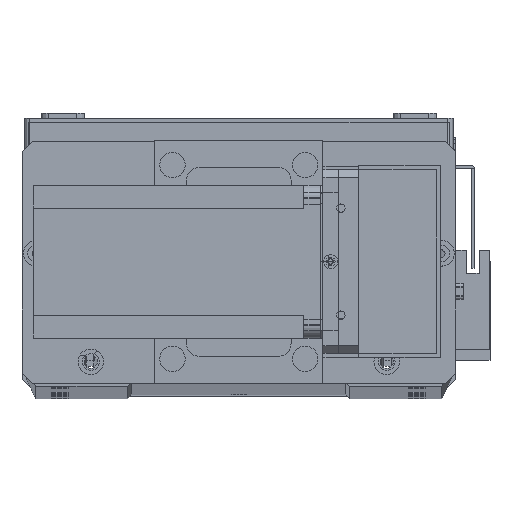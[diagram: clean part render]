
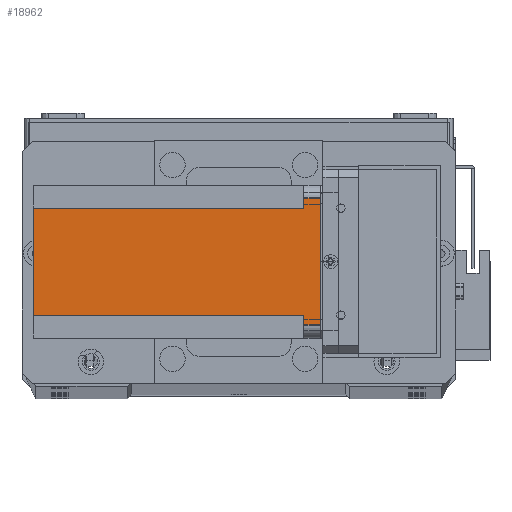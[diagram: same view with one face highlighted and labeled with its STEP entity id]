
A CAD part, top view. The second image highlights one B-rep face of the part: STEP entity #18962.
In plain terms, the highlighted planar face has unit normal (0, 0, 1) as drawn and (-1, 0, 0) by its records, which use the part's own axes.
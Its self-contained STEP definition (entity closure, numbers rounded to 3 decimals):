
#63 = CARTESIAN_POINT ( 'NONE',  ( 0., 51., -112.5 ) ) ;
#289 = VERTEX_POINT ( 'NONE', #32777 ) ;
#310 = VERTEX_POINT ( 'NONE', #14997 ) ;
#671 = LINE ( 'NONE', #8855, #33770 ) ;
#1322 = CARTESIAN_POINT ( 'NONE',  ( 0., 0., 0. ) ) ;
#1797 = CARTESIAN_POINT ( 'NONE',  ( 0., 5., 0. ) ) ;
#2201 = VERTEX_POINT ( 'NONE', #29296 ) ;
#3550 = DIRECTION ( 'NONE',  ( 0., 1., 0. ) ) ;
#3660 = DIRECTION ( 'NONE',  ( 0., -1., 0. ) ) ;
#3723 = EDGE_LOOP ( 'NONE', ( #21730, #23005, #26495, #27549, #28196, #28645, #29731, #30872 ) ) ;
#5030 = VERTEX_POINT ( 'NONE', #25143 ) ;
#5308 = FACE_OUTER_BOUND ( 'NONE', #3723, .T. ) ;
#5774 = LINE ( 'NONE', #14594, #19087 ) ;
#6526 = VECTOR ( 'NONE', #33902, 1000. ) ;
#7819 = EDGE_CURVE ( 'NONE', #310, #32319, #671, .T. ) ;
#8855 = CARTESIAN_POINT ( 'NONE',  ( 0., 55., -112.5 ) ) ;
#8934 = VECTOR ( 'NONE', #15512, 1000. ) ;
#9707 = EDGE_CURVE ( 'NONE', #29078, #12531, #31397, .T. ) ;
#9762 = EDGE_CURVE ( 'NONE', #29078, #5030, #10902, .T. ) ;
#9794 = LINE ( 'NONE', #15632, #8934 ) ;
#10415 = CARTESIAN_POINT ( 'NONE',  ( 0., 0., -112.5 ) ) ;
#10902 = LINE ( 'NONE', #14690, #29821 ) ;
#11024 = EDGE_CURVE ( 'NONE', #32671, #32319, #12961, .T. ) ;
#11314 = AXIS2_PLACEMENT_3D ( 'NONE', #10415, #13077, #30944 ) ;
#12114 = LINE ( 'NONE', #1322, #32537 ) ;
#12531 = VERTEX_POINT ( 'NONE', #1797 ) ;
#12961 = LINE ( 'NONE', #16318, #32554 ) ;
#13077 = DIRECTION ( 'NONE',  ( -1., 0., 0. ) ) ;
#14451 = DIRECTION ( 'NONE',  ( 0., 1., 0. ) ) ;
#14594 = CARTESIAN_POINT ( 'NONE',  ( 0., 0., -112.5 ) ) ;
#14690 = CARTESIAN_POINT ( 'NONE',  ( 0., 0., -6.5 ) ) ;
#14997 = CARTESIAN_POINT ( 'NONE',  ( 0., 55., 0. ) ) ;
#15512 = DIRECTION ( 'NONE',  ( 0., 0., -1. ) ) ;
#15632 = CARTESIAN_POINT ( 'NONE',  ( 0., 9., -112.5 ) ) ;
#16318 = CARTESIAN_POINT ( 'NONE',  ( 0., 60., -6.5 ) ) ;
#17379 = EDGE_CURVE ( 'NONE', #5030, #2201, #9794, .T. ) ;
#18322 = CARTESIAN_POINT ( 'NONE',  ( 0., 55., -6.5 ) ) ;
#18715 = EDGE_CURVE ( 'NONE', #289, #2201, #5774, .T. ) ;
#18962 = ADVANCED_FACE ( 'NONE', ( #5308 ), #25898, .T. ) ;
#19087 = VECTOR ( 'NONE', #3660, 1000. ) ;
#19724 = CARTESIAN_POINT ( 'NONE',  ( 0., 5., -112.5 ) ) ;
#19942 = DIRECTION ( 'NONE',  ( 0., 0., 1. ) ) ;
#20005 = DIRECTION ( 'NONE',  ( 0., -1., 0. ) ) ;
#20566 = LINE ( 'NONE', #63, #6526 ) ;
#21665 = CARTESIAN_POINT ( 'NONE',  ( 0., 51., -6.5 ) ) ;
#21730 = ORIENTED_EDGE ( 'NONE', *, *, #9762, .F. ) ;
#22886 = DIRECTION ( 'NONE',  ( 0., 0., -1. ) ) ;
#23005 = ORIENTED_EDGE ( 'NONE', *, *, #9707, .T. ) ;
#25001 = CARTESIAN_POINT ( 'NONE',  ( 0., 5., -6.5 ) ) ;
#25143 = CARTESIAN_POINT ( 'NONE',  ( 0., 9., -6.5 ) ) ;
#25475 = VECTOR ( 'NONE', #19942, 1000. ) ;
#25898 = PLANE ( 'NONE',  #11314 ) ;
#26495 = ORIENTED_EDGE ( 'NONE', *, *, #26990, .F. ) ;
#26990 = EDGE_CURVE ( 'NONE', #310, #12531, #12114, .T. ) ;
#27549 = ORIENTED_EDGE ( 'NONE', *, *, #7819, .T. ) ;
#27909 = EDGE_CURVE ( 'NONE', #289, #32671, #20566, .T. ) ;
#28196 = ORIENTED_EDGE ( 'NONE', *, *, #11024, .F. ) ;
#28645 = ORIENTED_EDGE ( 'NONE', *, *, #27909, .F. ) ;
#29078 = VERTEX_POINT ( 'NONE', #25001 ) ;
#29296 = CARTESIAN_POINT ( 'NONE',  ( 0., 9., -112.5 ) ) ;
#29731 = ORIENTED_EDGE ( 'NONE', *, *, #18715, .T. ) ;
#29821 = VECTOR ( 'NONE', #14451, 1000. ) ;
#30872 = ORIENTED_EDGE ( 'NONE', *, *, #17379, .F. ) ;
#30944 = DIRECTION ( 'NONE',  ( 0., -1., 0. ) ) ;
#31397 = LINE ( 'NONE', #19724, #25475 ) ;
#32319 = VERTEX_POINT ( 'NONE', #18322 ) ;
#32537 = VECTOR ( 'NONE', #20005, 1000. ) ;
#32554 = VECTOR ( 'NONE', #3550, 1000. ) ;
#32671 = VERTEX_POINT ( 'NONE', #21665 ) ;
#32777 = CARTESIAN_POINT ( 'NONE',  ( 0., 51., -112.5 ) ) ;
#33770 = VECTOR ( 'NONE', #22886, 1000. ) ;
#33902 = DIRECTION ( 'NONE',  ( 0., 0., 1. ) ) ;
